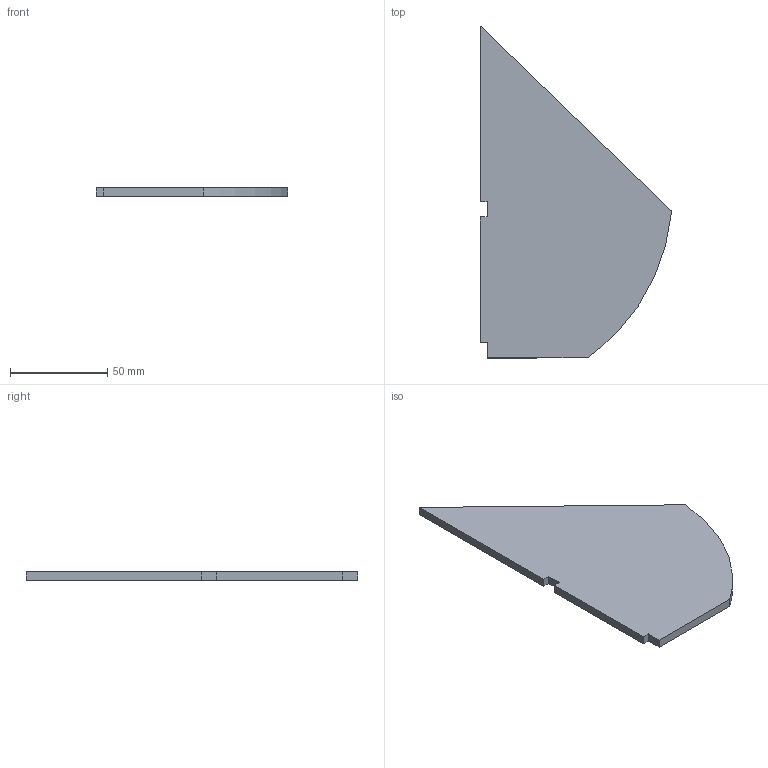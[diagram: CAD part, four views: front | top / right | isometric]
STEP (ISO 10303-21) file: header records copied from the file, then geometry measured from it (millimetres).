
FILE_DESCRIPTION(/* description */ ('STEP AP242','CAx-IF Rec.Pracs.---Representation and Presentation of Product Manufacturing Information (PMI)---4.0---2014-10-13','CAx-IF Rec.Pracs.---3D Tessellated Geometry---0.4---2014-09-14','2;1'),/* implementation_level */ '2;1');
FILE_NAME(/* name */ '64ec6915297df82481f79833',/* time_stamp */ '2023-08-28T09:29:58Z',/* author */ (''),/* organization */ (''),/* preprocessor_version */ 'ST-DEVELOPER v19.4',/* originating_system */ ' ',/* authorisation */ ' ');
FILE_SCHEMA (('AP242_MANAGED_MODEL_BASED_3D_ENGINEERING_MIM_LF { 1 0 10303 442 1 1 4 }'));
Length unit declared in the file: metre
Products named in the file (1): Part 2
Bounding box: 98.2 x 170.28 x 4.47 mm (x, y, z)
Volume: 48877.6 mm3; surface area: 23917.2 mm2
Topology: 1 solids, 1 shells, 12 faces, 30 edges, 20 vertices
Faces by surface type: plane 11, bspline 1
Entity records: 378 total; most frequent: CARTESIAN_POINT 74, ORIENTED_EDGE 60, DIRECTION 52, EDGE_CURVE 30, LINE 28, VECTOR 28, VERTEX_POINT 20, EDGE_LOOP 12
